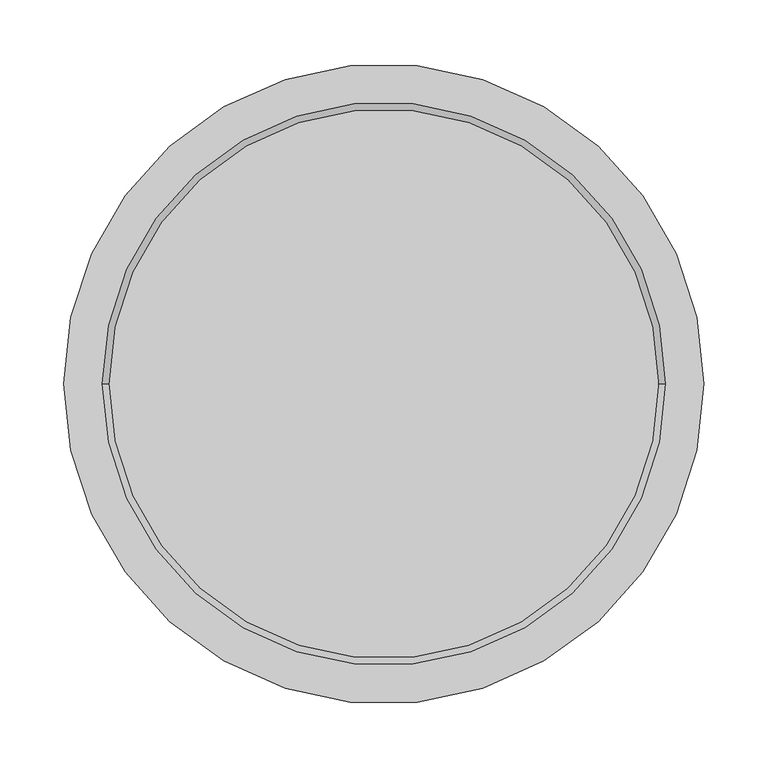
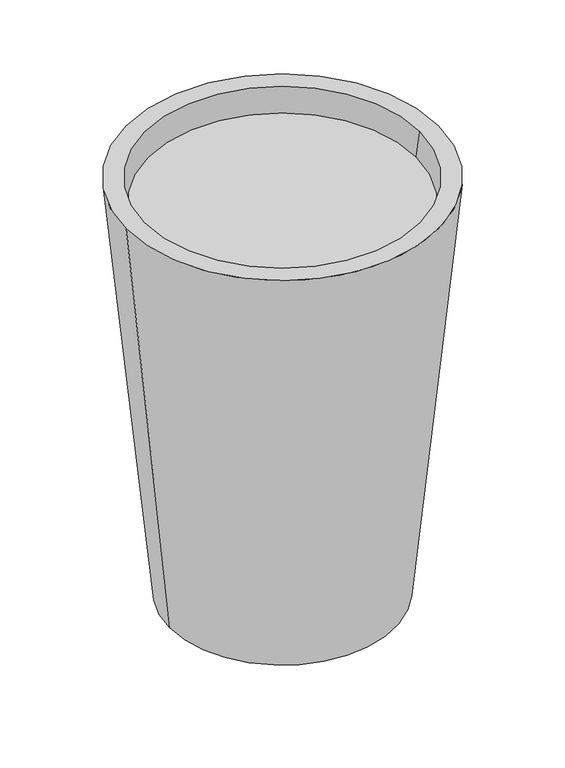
"""IFC4 building model written with IfcOpenShell, lengths in millimetres: flow terminal geometry, Brunnen : Brunnen."""

import ifcopenshell
import ifcopenshell.guid

model = None  # the IFC model being written
_history = None  # IfcOwnerHistory: only IFC2X3 demands one
_inside = {}  # id of a spatial element -> (the spatial element, [elements in it])
_under = {}  # id of a project, library or spatial element -> (it, [spatial elements below it])
_declared = {}  # id of a project -> (the project, [libraries it declares])
_typed = {}  # id of a type object -> (the type object, [elements of that type])
_made_of = {}  # id of a material, layer set ... -> (it, [elements and type objects made of it])


def new_model(schema):
    """Start an empty IFC model of exactly this schema.

    Asked for "IFC4X3", IfcOpenShell would pick the latest addendum, in which some entities
    have other attributes; the version numbers below select the first issue.
    IFC2X3 requires an IfcOwnerHistory on every rooted entity: one is made here for all.
    """
    global model, _history
    if schema == "IFC4X3":
        model = ifcopenshell.file(schema_version=(4, 3, 0, 0))
    else:
        model = ifcopenshell.file(schema=schema)
    _inside.clear()
    _under.clear()
    _declared.clear()
    _typed.clear()
    _made_of.clear()
    _history = None
    if model.schema == "IFC2X3":
        org = make("IfcOrganization", Name="unknown")
        user = make(
            "IfcPersonAndOrganization",
            ThePerson=make("IfcPerson", FamilyName="unknown"),
            TheOrganization=org,
        )
        app = make(
            "IfcApplication",
            ApplicationDeveloper=org,
            Version="unknown",
            ApplicationFullName="unknown",
            ApplicationIdentifier="unknown",
        )
        _history = make(
            "IfcOwnerHistory",
            OwningUser=user,
            OwningApplication=app,
            ChangeAction="ADDED",
            CreationDate=0,
        )
    return model


def make(cls, **values):
    """One entity of the class cls with the attributes given. An attribute that is None is left unset."""
    return model.create_entity(
        cls, **{name: value for name, value in values.items() if value is not None}
    )


def rooted(cls, **values):
    """An entity with a GlobalId (a new one), such as an element, a storey or a relation."""
    return make(cls, GlobalId=ifcopenshell.guid.new(), OwnerHistory=_history, **values)


def si_unit(unit_type, name, prefix=None):
    """IfcSIUnit, for example si_unit("LENGTHUNIT", "METRE", prefix="MILLI")."""
    return make("IfcSIUnit", UnitType=unit_type, Prefix=prefix, Name=name)


def assignment(units):
    """IfcUnitAssignment: the units of a project."""
    return None if units is None else make("IfcUnitAssignment", Units=units)


def point(xyz):
    """IfcCartesianPoint."""
    return None if xyz is None else make("IfcCartesianPoint", Coordinates=xyz)


def direction(xyz):
    """IfcDirection."""
    return None if xyz is None else make("IfcDirection", DirectionRatios=xyz)


def frame(location, z_axis=None, x_axis=None):
    """IfcAxis2Placement3D, a coordinate frame: its origin and axes. An axis left out is left unset."""
    return make(
        "IfcAxis2Placement3D",
        Location=point(location),
        Axis=direction(z_axis),
        RefDirection=direction(x_axis),
    )


def origin():
    """The frame at (0, 0, 0) with its axes left unset."""
    return frame((0.0, 0.0, 0.0))


def place(relative_to, where):
    """IfcLocalPlacement: puts the frame where relative to a parent placement (None: the world)."""
    return make(
        "IfcLocalPlacement", PlacementRelTo=relative_to, RelativePlacement=where
    )


def context(
    kind, dimensions, precision=None, world=None, true_north=None, identifier=None
):
    """IfcGeometricRepresentationContext, for example the 3D "Model" context."""
    return make(
        "IfcGeometricRepresentationContext",
        ContextIdentifier=identifier,
        ContextType=kind,
        CoordinateSpaceDimension=dimensions,
        Precision=precision,
        WorldCoordinateSystem=world,
        TrueNorth=true_north,
    )


def project(units=None, contexts=None):
    """IfcProject with its units and contexts."""
    return rooted(
        "IfcProject",
        Name="project",
        RepresentationContexts=contexts,
        UnitsInContext=assignment(units),
    )


def spatial(cls, under=None, at=None, **own):
    """A site, building, storey or space (cls), placed at a placement, below another one or the project."""
    s = rooted(cls, ObjectPlacement=at, **own)
    if under is not None:
        _under.setdefault(under.id(), (under, []))[1].append(s)
    return s


def polyline(points):
    """IfcPolyline through the points."""
    return make("IfcPolyline", Points=[point(p) for p in points])


def circle_curve(where, radius):
    """IfcCircle in the frame where."""
    return make("IfcCircle", Position=where, Radius=radius)


def shape(context_of_items, identifier, shape_type, items):
    """IfcShapeRepresentation: the items that make up one representation, for example the "Body"."""
    return make(
        "IfcShapeRepresentation",
        ContextOfItems=context_of_items,
        RepresentationIdentifier=identifier,
        RepresentationType=shape_type,
        Items=items,
    )


def source(mapping_origin, context_of_items, identifier, shape_type, items):
    """IfcRepresentationMap: a shape defined once, which mapped items show again and again."""
    return make(
        "IfcRepresentationMap",
        MappingOrigin=mapping_origin,
        MappedRepresentation=shape(context_of_items, identifier, shape_type, items),
    )


def transform(
    local_origin,
    x_axis=None,
    y_axis=None,
    z_axis=None,
    scale=None,
    scale2=None,
    scale3=None,
    uniform=True,
):
    """IfcCartesianTransformationOperator3D, or its non-uniform kind. x_axis, y_axis, z_axis: its Axis1, 2, 3."""
    if uniform:
        return make(
            "IfcCartesianTransformationOperator3D",
            Axis1=direction(x_axis),
            Axis2=direction(y_axis),
            LocalOrigin=point(local_origin),
            Scale=scale,
            Axis3=direction(z_axis),
        )
    return make(
        "IfcCartesianTransformationOperator3DnonUniform",
        Axis1=direction(x_axis),
        Axis2=direction(y_axis),
        LocalOrigin=point(local_origin),
        Scale=scale,
        Axis3=direction(z_axis),
        Scale2=scale2,
        Scale3=scale3,
    )


def mapped(mapping_source, mapping_target):
    """IfcMappedItem: shows the shape of a source again, moved by a transform."""
    return make(
        "IfcMappedItem", MappingSource=mapping_source, MappingTarget=mapping_target
    )


def made_of(thing, what):
    """Note that an element or type object is made of a material, layer set ...; save() writes the relation."""
    if what is not None:
        _made_of.setdefault(what.id(), (what, []))[1].append(thing)
    return thing


def element(
    cls,
    number,
    at=None,
    inside=None,
    cuts=None,
    type_object=None,
    material=None,
    context=None,
    identifier="Body",
    shape_type=None,
    held_by="IfcProductDefinitionShape",
    body=None,
    shapes=None,
    **own,
):
    """One element of the class cls, such as IfcWall. Its Tag is "e" and its number.

    at: its placement. inside: the storey or other place that contains it. cuts: it is an
    opening in that element (IfcRelVoidsElement). A single representation is given by context,
    identifier, shape_type and body (its items); several are given by shapes. held_by: the class
    of the entity that holds the representations. save() writes the other relations.
    """
    e = rooted(cls, Tag="e%d" % number, ObjectPlacement=at, **own)
    if body is not None:
        shapes = [shape(context, identifier, shape_type, body)]
    if shapes is not None:
        e.Representation = make(held_by, Representations=shapes)
    if inside is not None:
        _inside.setdefault(inside.id(), (inside, []))[1].append(e)
    if cuts is not None:
        rooted(
            "IfcRelVoidsElement", RelatingBuildingElement=cuts, RelatedOpeningElement=e
        )
    if type_object is not None:
        _typed.setdefault(type_object.id(), (type_object, []))[1].append(e)
    return made_of(e, material)


def aggregate(whole, parts):
    """IfcRelAggregates: a whole, such as a stair, and the parts it consists of."""
    return rooted("IfcRelAggregates", RelatingObject=whole, RelatedObjects=parts)


def save(model, path):
    """Write the relations noted so far, then the file.

    IfcRelAggregates (storeys below a building ...), IfcRelContainedInSpatialStructure (elements
    in a storey), IfcRelDefinesByType, IfcRelAssociatesMaterial and IfcRelDeclares: one each for
    every whole, place, type object, material and project.
    """
    for whole, parts in _under.values():
        aggregate(whole, parts)
    for where, things in _inside.values():
        rooted(
            "IfcRelContainedInSpatialStructure",
            RelatedElements=things,
            RelatingStructure=where,
        )
    for kind, things in _typed.values():
        rooted("IfcRelDefinesByType", RelatedObjects=things, RelatingType=kind)
    for what, things in _made_of.values():
        rooted("IfcRelAssociatesMaterial", RelatedObjects=things, RelatingMaterial=what)
    for by, libraries in _declared.values():
        rooted("IfcRelDeclares", RelatingContext=by, RelatedDefinitions=libraries)
    model.write(path)


def plane_surface(at):
    """IfcPlane: the flat surface through the origin of the frame at, square to its z axis."""
    return make("IfcPlane", Position=at)


def revolved_surface(curve, axis_point, axis_direction):
    """IfcSurfaceOfRevolution: the curve turned about the line through axis_point along axis_direction."""
    return make(
        "IfcSurfaceOfRevolution",
        SweptCurve=make("IfcArbitraryOpenProfileDef", ProfileType="CURVE", Curve=curve),
        AxisPosition=make("IfcAxis1Placement", Location=point(axis_point), Axis=direction(axis_direction)),
    )


def advanced_brep(points, edges, surfaces, faces):
    """IfcAdvancedBrep: a solid bounded by faces that lie on surfaces and meet in shared edges.

    An edge is (start, end): straight between two places in points (the first is 0);
    or (start, end, curve); or (start, end, curve, False) where it runs against its curve.
    A face is (place in surfaces, loops), or (place, loops, False) where it looks against
    its surface's normal. A loop lists edges by number (the first is 1), with a minus sign
    where the edge is run from its end to its start. The first loop is the outer one.
    """
    corners = [point(p) for p in points]
    vertices = [make("IfcVertexPoint", VertexGeometry=c) for c in corners]
    made = []
    for start, end, *more in edges:
        made.append(
            make(
                "IfcEdgeCurve",
                EdgeStart=vertices[start],
                EdgeEnd=vertices[end],
                EdgeGeometry=more[0] if more else make("IfcPolyline", Points=[corners[start], corners[end]]),
                SameSense=more[1] if len(more) > 1 else True,
            )
        )
    hull = []
    for where, loops, *sense in faces:
        bounds = []
        for j, loop in enumerate(loops):
            ring = [make("IfcOrientedEdge", EdgeElement=made[abs(k) - 1], Orientation=k > 0) for k in loop]
            bounds.append(
                make(
                    "IfcFaceOuterBound" if j == 0 else "IfcFaceBound",
                    Bound=make("IfcEdgeLoop", EdgeList=ring),
                    Orientation=True,
                )
            )
        hull.append(make("IfcAdvancedFace", Bounds=bounds, FaceSurface=surfaces[where], SameSense=sense[0] if sense else True))
    return make("IfcAdvancedBrep", Outer=make("IfcClosedShell", CfsFaces=hull))


def flow_terminal_22d4d4f2(model_context):
    return source(origin(), model_context, "Body", "AdvancedBrep", [
        advanced_brep(
        [(-220.0, 0.0, 658.2324572), (220.0, 0.0, 658.2324572), (-130.0, 0.0, 50.0), (130.0, 0.0, 50.0)],
        [
            (0, 1, circle_curve(frame((0.0, 0.0, 658.2324572), z_axis=(0.0, 0.0, 1.0), x_axis=(-1.0, 0.0, 0.0)), 220.0)),
            (1, 0, circle_curve(frame((0.0, 0.0, 658.2324572), z_axis=(0.0, 0.0, 1.0), x_axis=(1.0, 0.0, 0.0)), 220.0)),
            (2, 3, circle_curve(frame((0.0, 0.0, 50.0), z_axis=(0.0, 0.0, -1.0), x_axis=(1.0, 0.0, 0.0)), 130.0)),
            (3, 2, circle_curve(frame((0.0, 0.0, 50.0), z_axis=(0.0, 0.0, -1.0), x_axis=(-1.0, 0.0, 0.0)), 130.0)),
            (3, 1),
            (0, 2),
        ],
        [
            plane_surface(frame((0.0, 0.0, 658.2324572), z_axis=(0.0, 0.0, 1.0), x_axis=(0.0, -1.0, 0.0))),
            plane_surface(frame((0.0, 0.0, 50.0), z_axis=(0.0, 0.0, -1.0), x_axis=(0.0, -1.0, 0.0))),
            revolved_surface(polyline([(129.99999999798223, 0.0, 50.000000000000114), (220.0, 0.0, 658.2324572)]), (0.0, 0.0, -828.5579937), (0.0, 0.0, 1.0)),
            revolved_surface(polyline([(-129.99999999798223, 0.0, 50.000000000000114), (-220.0, 0.0, 658.2324572)]), (0.0, 0.0, -828.5579937), (0.0, 0.0, 1.0)),
        ],
        [
            (0, [[1, 2]]),
            (1, [[3, 4]]),
            (2, [[-4, 5, -1, 6]]),
            (3, [[-3, -6, -2, -5]]),
        ],
    ),
        advanced_brep(
        [(-250.0, 0.0, 700.0), (250.0, 0.0, 700.0), (220.0, 0.0, 700.0), (-220.0, 0.0, 700.0), (-180.0, 0.0, 0.0), (180.0, 0.0, 0.0), (-130.0, 0.0, 50.0), (130.0, 0.0, 50.0)],
        [
            (0, 1, circle_curve(frame((0.0, 0.0, 700.0), z_axis=(0.0, 0.0, 1.0), x_axis=(-1.0, 0.0, 0.0)), 250.0)),
            (1, 0, circle_curve(frame((0.0, 0.0, 700.0), z_axis=(0.0, 0.0, 1.0), x_axis=(1.0, 0.0, 0.0)), 250.0)),
            (2, 3, circle_curve(frame((0.0, 0.0, 700.0), z_axis=(0.0, 0.0, -1.0), x_axis=(-1.0, 0.0, 0.0)), 220.0)),
            (3, 2, circle_curve(frame((0.0, 0.0, 700.0), z_axis=(0.0, 0.0, -1.0), x_axis=(1.0, 0.0, 0.0)), 220.0)),
            (4, 5, circle_curve(frame((0.0, 0.0, 0.0), z_axis=(0.0, 0.0, -1.0), x_axis=(1.0, 0.0, 0.0)), 180.0)),
            (5, 4, circle_curve(frame((0.0, 0.0, 0.0), z_axis=(0.0, 0.0, -1.0), x_axis=(-1.0, 0.0, 0.0)), 180.0)),
            (0, 4),
            (5, 1),
            (6, 7, circle_curve(frame((0.0, 0.0, 50.0), z_axis=(0.0, 0.0, 1.0), x_axis=(-1.0, 0.0, 0.0)), 130.0)),
            (7, 6, circle_curve(frame((0.0, 0.0, 50.0), z_axis=(0.0, 0.0, 1.0), x_axis=(1.0, 0.0, 0.0)), 130.0)),
            (6, 3),
            (2, 7),
        ],
        [
            plane_surface(frame((0.0, 0.0, 700.0), z_axis=(0.0, 0.0, 1.0), x_axis=(0.0, -1.0, 0.0))),
            plane_surface(frame((0.0, 0.0, 0.0), z_axis=(0.0, 0.0, -1.0), x_axis=(0.0, -1.0, 0.0))),
            revolved_surface(polyline([(180.0, 0.0, 0.0), (250.0, 0.0, 700.0)]), (0.0, 0.0, -1800.0), (0.0, 0.0, 1.0)),
            revolved_surface(polyline([(-180.0, 0.0, 0.0), (-250.0, 0.0, 700.0)]), (0.0, 0.0, -1800.0), (0.0, 0.0, 1.0)),
            plane_surface(frame((0.0, 0.0, 50.0), z_axis=(0.0, 0.0, 1.0), x_axis=(0.0, -1.0, 0.0))),
            revolved_surface(polyline([(-220.0, 0.0, 700.0), (-130.00000000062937, 0.0, 50.0)]), (0.0, 0.0, -888.8888889), (0.0, 0.0, 1.0)),
            revolved_surface(polyline([(220.0, 0.0, 700.0), (130.00000000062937, 0.0, 50.0)]), (0.0, 0.0, -888.8888889), (0.0, 0.0, 1.0)),
        ],
        [
            (0, [[1, 2], [3, 4]]),
            (1, [[5, 6]]),
            (2, [[-1, 7, -6, 8]]),
            (3, [[-2, -8, -5, -7]]),
            (4, [[9, 10]]),
            (5, [[-9, 11, -3, 12]]),
            (6, [[-10, -12, -4, -11]]),
        ],
    ),
    ])


if __name__ == "__main__":
    model = new_model("IFC4")
    model_context = context("Model", 3, world=origin())
    ifc_project = project(units=[si_unit("LENGTHUNIT", "METRE", prefix="MILLI")], contexts=[model_context])
    site = spatial("IfcSite", under=ifc_project)
    building = spatial("IfcBuilding", under=site)
    placement = place(None, origin())
    flow_terminal_shape = flow_terminal_22d4d4f2(model_context)
    element("IfcFlowTerminal", 1, ObjectType="Brunnen : Brunnen", at=placement, inside=building, context=model_context, shape_type="MappedRepresentation", body=[
        mapped(flow_terminal_shape, transform((0.0, 0.0, 0.0), x_axis=(1.0, 0.0, 0.0), y_axis=(0.0, 1.0, 0.0), z_axis=(0.0, 0.0, 1.0))),
    ])
    save(model, "model.ifc")
